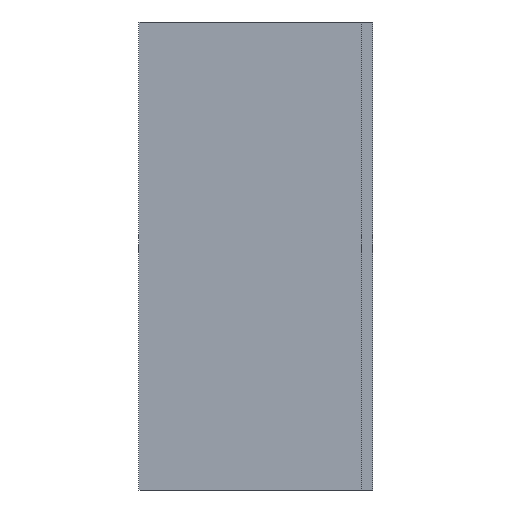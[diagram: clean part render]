
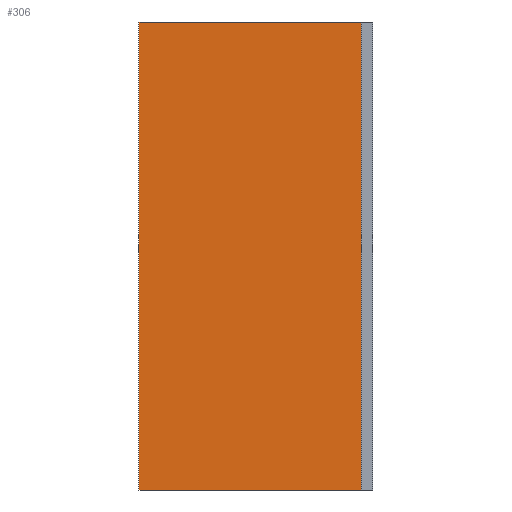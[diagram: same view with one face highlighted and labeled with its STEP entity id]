
A CAD part, left-side view. The second image highlights one B-rep face of the part: STEP entity #306.
In plain terms, the highlighted planar face has unit normal (-1, 0, 0).
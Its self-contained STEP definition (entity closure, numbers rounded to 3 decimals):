
#8 = DIRECTION ( 'NONE',  ( 0., 0., -1. ) ) ;
#10 = CARTESIAN_POINT ( 'NONE',  ( -2.5, 5., -100. ) ) ;
#17 = DIRECTION ( 'NONE',  ( 1., 0., 0. ) ) ;
#29 = ORIENTED_EDGE ( 'NONE', *, *, #220, .F. ) ;
#44 = CARTESIAN_POINT ( 'NONE',  ( -2.5, 100., -100. ) ) ;
#53 = CARTESIAN_POINT ( 'NONE',  ( -2.5, 5., 100. ) ) ;
#70 = EDGE_CURVE ( 'NONE', #294, #193, #214, .T. ) ;
#76 = DIRECTION ( 'NONE',  ( 0., -1., 0. ) ) ;
#102 = VECTOR ( 'NONE', #234, 1000. ) ;
#132 = AXIS2_PLACEMENT_3D ( 'NONE', #359, #17, #217 ) ;
#135 = CARTESIAN_POINT ( 'NONE',  ( -2.5, 5., -100. ) ) ;
#141 = EDGE_CURVE ( 'NONE', #368, #232, #197, .T. ) ;
#177 = CARTESIAN_POINT ( 'NONE',  ( -2.5, 5., 100. ) ) ;
#185 = VECTOR ( 'NONE', #325, 1000. ) ;
#189 = CARTESIAN_POINT ( 'NONE',  ( -2.5, 100., 100. ) ) ;
#193 = VERTEX_POINT ( 'NONE', #10 ) ;
#197 = LINE ( 'NONE', #351, #185 ) ;
#200 = LINE ( 'NONE', #135, #322 ) ;
#214 = LINE ( 'NONE', #344, #353 ) ;
#217 = DIRECTION ( 'NONE',  ( 0., 0., -1. ) ) ;
#220 = EDGE_CURVE ( 'NONE', #368, #294, #222, .T. ) ;
#222 = LINE ( 'NONE', #177, #102 ) ;
#231 = FACE_OUTER_BOUND ( 'NONE', #265, .T. ) ;
#232 = VERTEX_POINT ( 'NONE', #44 ) ;
#234 = DIRECTION ( 'NONE',  ( 0., -1., 0. ) ) ;
#260 = EDGE_CURVE ( 'NONE', #232, #193, #200, .T. ) ;
#265 = EDGE_LOOP ( 'NONE', ( #358, #336, #29, #298 ) ) ;
#294 = VERTEX_POINT ( 'NONE', #53 ) ;
#298 = ORIENTED_EDGE ( 'NONE', *, *, #141, .T. ) ;
#306 = ADVANCED_FACE ( 'NONE', ( #231 ), #308, .F. ) ;
#308 = PLANE ( 'NONE',  #132 ) ;
#322 = VECTOR ( 'NONE', #76, 1000. ) ;
#325 = DIRECTION ( 'NONE',  ( 0., 0., -1. ) ) ;
#336 = ORIENTED_EDGE ( 'NONE', *, *, #70, .F. ) ;
#344 = CARTESIAN_POINT ( 'NONE',  ( -2.5, 5., 100. ) ) ;
#351 = CARTESIAN_POINT ( 'NONE',  ( -2.5, 100., 100. ) ) ;
#353 = VECTOR ( 'NONE', #8, 1000. ) ;
#358 = ORIENTED_EDGE ( 'NONE', *, *, #260, .T. ) ;
#359 = CARTESIAN_POINT ( 'NONE',  ( -2.5, 5., 100. ) ) ;
#368 = VERTEX_POINT ( 'NONE', #189 ) ;
